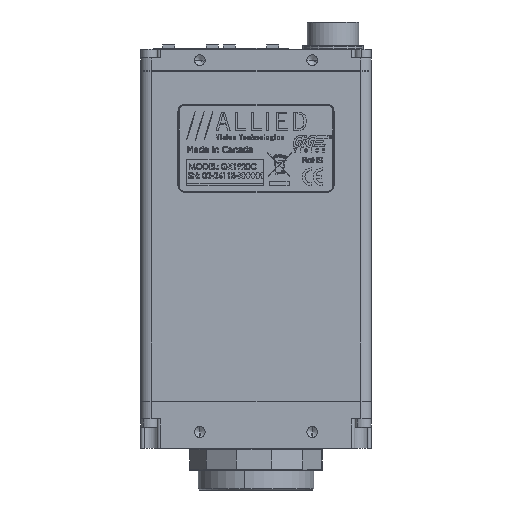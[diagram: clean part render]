
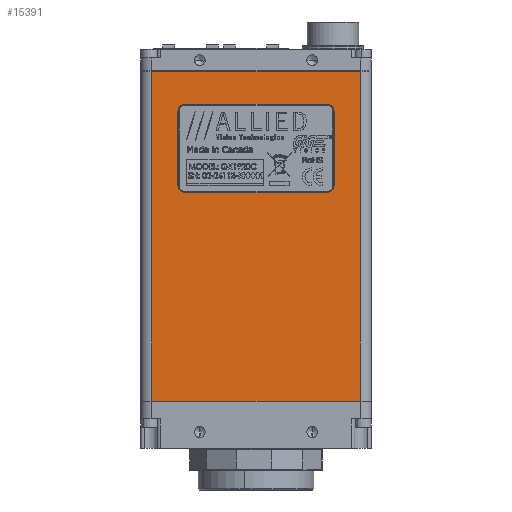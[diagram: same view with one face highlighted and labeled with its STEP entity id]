
A CAD part, front view. The second image highlights one B-rep face of the part: STEP entity #15391.
In plain terms, the highlighted planar face has unit normal (0, -1, 0).
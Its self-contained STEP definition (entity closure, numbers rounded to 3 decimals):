
#682 = ORIENTED_EDGE ( 'NONE', *, *, #149561, .T. ) ;
#6068 = ORIENTED_EDGE ( 'NONE', *, *, #113646, .T. ) ;
#9957 = VERTEX_POINT ( 'NONE', #45649 ) ;
#10233 = CARTESIAN_POINT ( 'NONE',  ( 16.447, -10.16, 11.748 ) ) ;
#11254 = VERTEX_POINT ( 'NONE', #123245 ) ;
#11291 = DIRECTION ( 'NONE',  ( -1., 0., 0. ) ) ;
#15391 = ADVANCED_FACE ( 'NONE', ( #40530, #134672 ), #157964, .T. ) ;
#20658 = ORIENTED_EDGE ( 'NONE', *, *, #128648, .T. ) ;
#21715 = DIRECTION ( 'NONE',  ( 0., 0., 1. ) ) ;
#21885 = DIRECTION ( 'NONE',  ( 0., 0., -1. ) ) ;
#23268 = CARTESIAN_POINT ( 'NONE',  ( 24.13, -10.16, 38.1 ) ) ;
#27072 = DIRECTION ( 'NONE',  ( 1., 0., 0. ) ) ;
#28153 = VERTEX_POINT ( 'NONE', #172672 ) ;
#29182 = LINE ( 'NONE', #177173, #112866 ) ;
#30839 = CARTESIAN_POINT ( 'NONE',  ( -16.447, -10.16, 28.893 ) ) ;
#32071 = DIRECTION ( 'NONE',  ( 0., 0., -1. ) ) ;
#36375 = VECTOR ( 'NONE', #32071, 1000. ) ;
#37574 = VERTEX_POINT ( 'NONE', #51246 ) ;
#37648 = ORIENTED_EDGE ( 'NONE', *, *, #142644, .T. ) ;
#38207 = AXIS2_PLACEMENT_3D ( 'NONE', #10233, #127156, #27072 ) ;
#40530 = FACE_OUTER_BOUND ( 'NONE', #43645, .T. ) ;
#40801 = VERTEX_POINT ( 'NONE', #112213 ) ;
#41626 = LINE ( 'NONE', #148797, #36375 ) ;
#43645 = EDGE_LOOP ( 'NONE', ( #161437, #187498, #682, #209658 ) ) ;
#44547 = CARTESIAN_POINT ( 'NONE',  ( -16.447, -10.16, 11.748 ) ) ;
#45649 = CARTESIAN_POINT ( 'NONE',  ( -18.034, -10.16, 11.748 ) ) ;
#46861 = LINE ( 'NONE', #23268, #130558 ) ;
#47616 = DIRECTION ( 'NONE',  ( 1., 0., 0. ) ) ;
#51246 = CARTESIAN_POINT ( 'NONE',  ( 18.034, -10.16, 11.748 ) ) ;
#52570 = ORIENTED_EDGE ( 'NONE', *, *, #137290, .T. ) ;
#54712 = DIRECTION ( 'NONE',  ( 0., 1., 0. ) ) ;
#59925 = CARTESIAN_POINT ( 'NONE',  ( -24.13, -10.16, 38.1 ) ) ;
#61353 = DIRECTION ( 'NONE',  ( 1., 0., 0. ) ) ;
#69364 = LINE ( 'NONE', #112028, #113814 ) ;
#72181 = CARTESIAN_POINT ( 'NONE',  ( -16.447, -10.16, 10.16 ) ) ;
#72977 = VECTOR ( 'NONE', #21715, 1000. ) ;
#75418 = AXIS2_PLACEMENT_3D ( 'NONE', #44547, #161113, #61353 ) ;
#76531 = VECTOR ( 'NONE', #21885, 1000. ) ;
#83747 = DIRECTION ( 'NONE',  ( 0., 0., 1. ) ) ;
#90083 = CIRCLE ( 'NONE', #101754, 1.587 ) ;
#92214 = VERTEX_POINT ( 'NONE', #116905 ) ;
#98787 = VERTEX_POINT ( 'NONE', #183511 ) ;
#101754 = AXIS2_PLACEMENT_3D ( 'NONE', #30839, #147588, #47616 ) ;
#101800 = EDGE_CURVE ( 'NONE', #179206, #40801, #210683, .T. ) ;
#102300 = CARTESIAN_POINT ( 'NONE',  ( 24.13, -10.16, 30.48 ) ) ;
#108137 = EDGE_CURVE ( 'NONE', #40801, #37574, #164936, .T. ) ;
#112028 = CARTESIAN_POINT ( 'NONE',  ( 24.13, -10.16, -38.1 ) ) ;
#112213 = CARTESIAN_POINT ( 'NONE',  ( 18.034, -10.16, 28.893 ) ) ;
#112866 = VECTOR ( 'NONE', #11291, 1000. ) ;
#113646 = EDGE_CURVE ( 'NONE', #37574, #28153, #143326, .T. ) ;
#113814 = VECTOR ( 'NONE', #209926, 1000. ) ;
#116905 = CARTESIAN_POINT ( 'NONE',  ( -16.447, -10.16, 30.48 ) ) ;
#122008 = CARTESIAN_POINT ( 'NONE',  ( 18.034, -10.16, -92.399 ) ) ;
#122614 = EDGE_CURVE ( 'NONE', #28153, #159360, #29182, .T. ) ;
#123245 = CARTESIAN_POINT ( 'NONE',  ( -18.034, -10.16, 28.893 ) ) ;
#127156 = DIRECTION ( 'NONE',  ( 0., 1., 0. ) ) ;
#128648 = EDGE_CURVE ( 'NONE', #159360, #9957, #168669, .T. ) ;
#130558 = VECTOR ( 'NONE', #140108, 1000. ) ;
#134135 = LINE ( 'NONE', #102300, #205310 ) ;
#134672 = FACE_BOUND ( 'NONE', #172993, .T. ) ;
#137290 = EDGE_CURVE ( 'NONE', #9957, #11254, #157878, .T. ) ;
#138606 = CARTESIAN_POINT ( 'NONE',  ( 24.13, -10.16, -92.399 ) ) ;
#140108 = DIRECTION ( 'NONE',  ( -1., 0., 0. ) ) ;
#142644 = EDGE_CURVE ( 'NONE', #11254, #92214, #90083, .T. ) ;
#143279 = EDGE_CURVE ( 'NONE', #92214, #179206, #134135, .T. ) ;
#143326 = CIRCLE ( 'NONE', #38207, 1.587 ) ;
#147588 = DIRECTION ( 'NONE',  ( 0., 1., 0. ) ) ;
#148797 = CARTESIAN_POINT ( 'NONE',  ( -24.13, -10.16, -92.399 ) ) ;
#148850 = AXIS2_PLACEMENT_3D ( 'NONE', #154611, #54712, #170997 ) ;
#149561 = EDGE_CURVE ( 'NONE', #204049, #212489, #69364, .T. ) ;
#153403 = ORIENTED_EDGE ( 'NONE', *, *, #122614, .T. ) ;
#154611 = CARTESIAN_POINT ( 'NONE',  ( 16.447, -10.16, 28.893 ) ) ;
#154873 = DIRECTION ( 'NONE',  ( 1., 0., 0. ) ) ;
#155057 = DIRECTION ( 'NONE',  ( 0., -1., 0. ) ) ;
#155136 = CARTESIAN_POINT ( 'NONE',  ( 24.13, -10.16, -92.399 ) ) ;
#156307 = LINE ( 'NONE', #138606, #72977 ) ;
#156597 = EDGE_CURVE ( 'NONE', #212489, #98787, #156307, .T. ) ;
#157878 = LINE ( 'NONE', #182864, #195806 ) ;
#157964 = PLANE ( 'NONE',  #196582 ) ;
#159360 = VERTEX_POINT ( 'NONE', #72181 ) ;
#161113 = DIRECTION ( 'NONE',  ( 0., 1., 0. ) ) ;
#161437 = ORIENTED_EDGE ( 'NONE', *, *, #163414, .T. ) ;
#163414 = EDGE_CURVE ( 'NONE', #98787, #208341, #46861, .T. ) ;
#164936 = LINE ( 'NONE', #122008, #76531 ) ;
#168669 = CIRCLE ( 'NONE', #75418, 1.587 ) ;
#169380 = EDGE_CURVE ( 'NONE', #208341, #204049, #41626, .T. ) ;
#170997 = DIRECTION ( 'NONE',  ( 1., 0., 0. ) ) ;
#172672 = CARTESIAN_POINT ( 'NONE',  ( 16.447, -10.16, 10.16 ) ) ;
#172993 = EDGE_LOOP ( 'NONE', ( #37648, #211821, #189870, #197637, #6068, #153403, #20658, #52570 ) ) ;
#177173 = CARTESIAN_POINT ( 'NONE',  ( 24.13, -10.16, 10.16 ) ) ;
#179206 = VERTEX_POINT ( 'NONE', #185289 ) ;
#182864 = CARTESIAN_POINT ( 'NONE',  ( -18.034, -10.16, -92.399 ) ) ;
#183511 = CARTESIAN_POINT ( 'NONE',  ( 24.13, -10.16, 38.1 ) ) ;
#184555 = DIRECTION ( 'NONE',  ( 1., 0., 0. ) ) ;
#185289 = CARTESIAN_POINT ( 'NONE',  ( 16.447, -10.16, 30.48 ) ) ;
#187498 = ORIENTED_EDGE ( 'NONE', *, *, #169380, .T. ) ;
#189870 = ORIENTED_EDGE ( 'NONE', *, *, #101800, .T. ) ;
#195806 = VECTOR ( 'NONE', #83747, 1000. ) ;
#196582 = AXIS2_PLACEMENT_3D ( 'NONE', #155136, #155057, #154873 ) ;
#197637 = ORIENTED_EDGE ( 'NONE', *, *, #108137, .T. ) ;
#204049 = VERTEX_POINT ( 'NONE', #211079 ) ;
#205310 = VECTOR ( 'NONE', #184555, 1000. ) ;
#208341 = VERTEX_POINT ( 'NONE', #59925 ) ;
#209658 = ORIENTED_EDGE ( 'NONE', *, *, #156597, .T. ) ;
#209926 = DIRECTION ( 'NONE',  ( 1., 0., 0. ) ) ;
#210683 = CIRCLE ( 'NONE', #148850, 1.587 ) ;
#211079 = CARTESIAN_POINT ( 'NONE',  ( -24.13, -10.16, -38.1 ) ) ;
#211821 = ORIENTED_EDGE ( 'NONE', *, *, #143279, .T. ) ;
#212489 = VERTEX_POINT ( 'NONE', #214017 ) ;
#214017 = CARTESIAN_POINT ( 'NONE',  ( 24.13, -10.16, -38.1 ) ) ;
